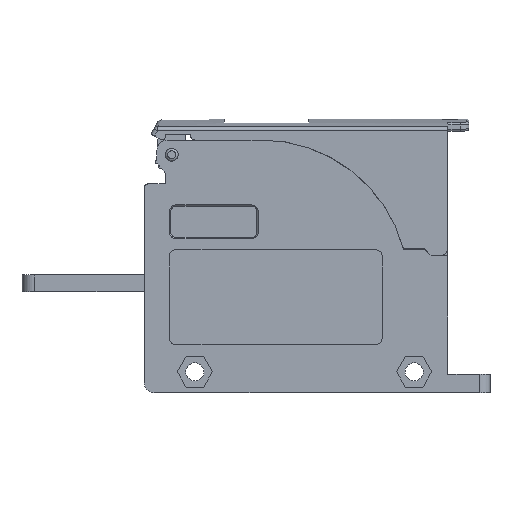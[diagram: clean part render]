
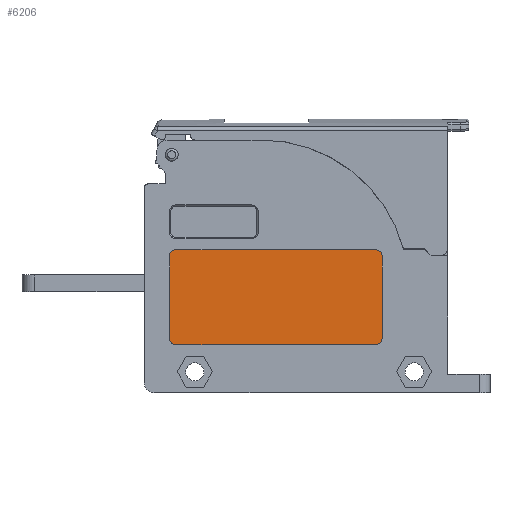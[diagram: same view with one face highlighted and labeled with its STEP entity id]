
A CAD part, left-side view. The second image highlights one B-rep face of the part: STEP entity #6206.
In plain terms, the highlighted planar face has unit normal (-1, 0, 0).
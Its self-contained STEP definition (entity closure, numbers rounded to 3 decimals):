
#5460=CIRCLE('',#22765,1.5);
#5461=CIRCLE('',#22768,1.5);
#5462=CIRCLE('',#22771,1.5);
#5463=CIRCLE('',#22772,1.5);
#6206=ADVANCED_FACE('',(#7882),#7143,.T.);
#7143=PLANE('',#22773);
#7882=FACE_OUTER_BOUND('',#8790,.T.);
#8790=EDGE_LOOP('',(#10769,#10770,#10771,#10772,#10773,#10774,#10775,#10776));
#10769=ORIENTED_EDGE('',*,*,#17222,.F.);
#10770=ORIENTED_EDGE('',*,*,#17223,.T.);
#10771=ORIENTED_EDGE('',*,*,#17224,.F.);
#10772=ORIENTED_EDGE('',*,*,#17225,.T.);
#10773=ORIENTED_EDGE('',*,*,#17212,.T.);
#10774=ORIENTED_EDGE('',*,*,#17216,.T.);
#10775=ORIENTED_EDGE('',*,*,#17218,.T.);
#10776=ORIENTED_EDGE('',*,*,#17220,.T.);
#15403=VERTEX_POINT('',#30671);
#15404=VERTEX_POINT('',#30672);
#15405=VERTEX_POINT('',#30677);
#15406=VERTEX_POINT('',#30681);
#15407=VERTEX_POINT('',#30685);
#15408=VERTEX_POINT('',#30689);
#15409=VERTEX_POINT('',#30693);
#15410=VERTEX_POINT('',#30695);
#17212=EDGE_CURVE('',#15403,#15404,#19650,.T.);
#17216=EDGE_CURVE('',#15404,#15405,#5460,.T.);
#17218=EDGE_CURVE('',#15405,#15406,#19655,.T.);
#17220=EDGE_CURVE('',#15406,#15407,#5461,.T.);
#17222=EDGE_CURVE('',#15408,#15407,#19658,.T.);
#17223=EDGE_CURVE('',#15408,#15409,#5462,.T.);
#17224=EDGE_CURVE('',#15410,#15409,#19659,.T.);
#17225=EDGE_CURVE('',#15410,#15403,#5463,.T.);
#19650=LINE('',#30670,#21366);
#19655=LINE('',#30682,#21371);
#19658=LINE('',#30690,#21374);
#19659=LINE('',#30694,#21375);
#21366=VECTOR('',#25257,1.);
#21371=VECTOR('',#25268,1.);
#21374=VECTOR('',#25277,1.);
#21375=VECTOR('',#25282,1.);
#22765=AXIS2_PLACEMENT_3D('',#30678,#25263,#25264);
#22768=AXIS2_PLACEMENT_3D('',#30686,#25272,#25273);
#22771=AXIS2_PLACEMENT_3D('',#30692,#25280,#25281);
#22772=AXIS2_PLACEMENT_3D('',#30696,#25283,#25284);
#22773=AXIS2_PLACEMENT_3D('',#30697,#25285,#25286);
#25257=DIRECTION('',(0.,1.,0.));
#25263=DIRECTION('',(-1.,0.,0.));
#25264=DIRECTION('',(0.,0.,1.));
#25268=DIRECTION('',(0.,0.,-1.));
#25272=DIRECTION('',(-1.,0.,0.));
#25273=DIRECTION('',(0.,0.,1.));
#25277=DIRECTION('',(0.,1.,0.));
#25280=DIRECTION('',(-1.,0.,0.));
#25281=DIRECTION('',(0.,0.,1.));
#25282=DIRECTION('',(0.,0.,-1.));
#25283=DIRECTION('',(-1.,0.,0.));
#25284=DIRECTION('',(0.,0.,1.));
#25285=DIRECTION('',(-1.,0.,0.));
#25286=DIRECTION('',(0.,0.,1.));
#30670=CARTESIAN_POINT('',(-129.55,23.7,19.55));
#30671=CARTESIAN_POINT('',(-129.55,-0.4,19.55));
#30672=CARTESIAN_POINT('',(-129.55,47.,19.55));
#30677=CARTESIAN_POINT('',(-129.55,48.5,18.05));
#30678=CARTESIAN_POINT('',(-129.55,47.,18.05));
#30681=CARTESIAN_POINT('',(-129.55,48.5,-1.45));
#30682=CARTESIAN_POINT('',(-129.55,48.5,2.));
#30685=CARTESIAN_POINT('',(-129.55,47.,-2.95));
#30686=CARTESIAN_POINT('',(-129.55,47.,-1.45));
#30689=CARTESIAN_POINT('',(-129.55,-0.4,-2.95));
#30690=CARTESIAN_POINT('',(-129.55,42.,-2.95));
#30692=CARTESIAN_POINT('',(-129.55,-0.4,-1.45));
#30693=CARTESIAN_POINT('',(-129.55,-1.9,-1.45));
#30694=CARTESIAN_POINT('',(-129.55,-1.9,5.));
#30695=CARTESIAN_POINT('',(-129.55,-1.9,18.05));
#30696=CARTESIAN_POINT('',(-129.55,-0.4,18.05));
#30697=CARTESIAN_POINT('',(-129.55,23.7,2.));
